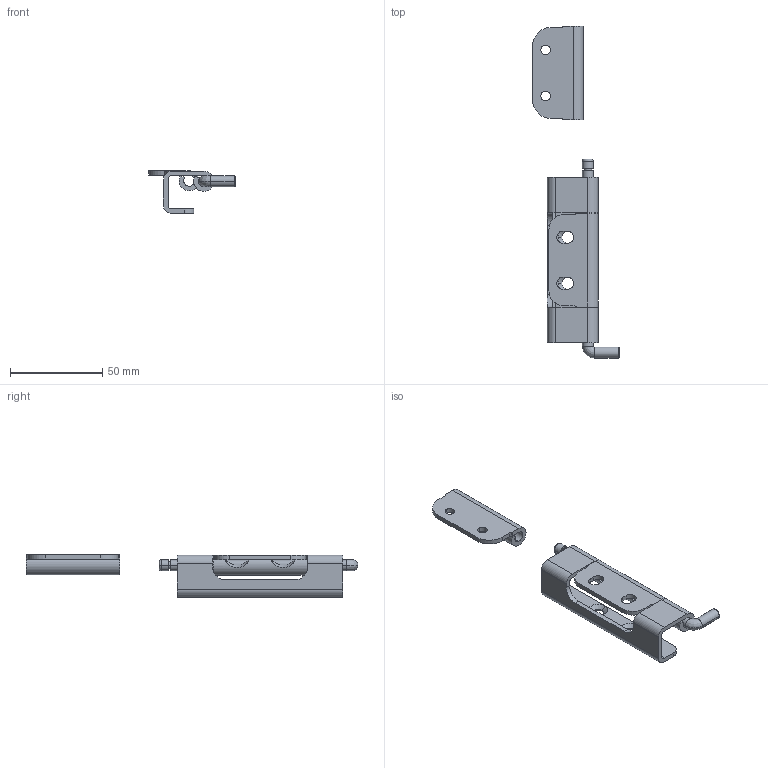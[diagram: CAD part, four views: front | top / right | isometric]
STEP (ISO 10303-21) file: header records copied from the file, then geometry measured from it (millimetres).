
FILE_DESCRIPTION(/* description */ (''),/* implementation_level */ '2;1');
FILE_NAME(/* name */ 'JL283-1',/* time_stamp */ '2026-03-04T18:47:09+08:00',/* author */ (''),/* organization */ (''),/* preprocessor_version */ 'ST-DEVELOPER v19.2',/* originating_system */ 'Rhino 8.5',/* authorisation */ '');
FILE_SCHEMA (('CONFIG_CONTROL_DESIGN'));
Length unit declared in the file: millimetre
Products named in the file (1): Document
Bounding box: 47.05 x 180.4 x 23.33 mm (x, y, z)
Volume: 23631.5 mm3; surface area: 20935.3 mm2
Topology: 4 solids, 4 shells, 112 faces, 294 edges, 192 vertices
Faces by surface type: cylinder 58, plane 42, bspline 12
Entity records: 3954 total; most frequent: CARTESIAN_POINT 1388, ORIENTED_EDGE 588, DIRECTION 352, EDGE_CURVE 294, AXIS2_PLACEMENT_3D 226, VERTEX_POINT 192, EDGE_LOOP 126, TRIMMED_CURVE 124
